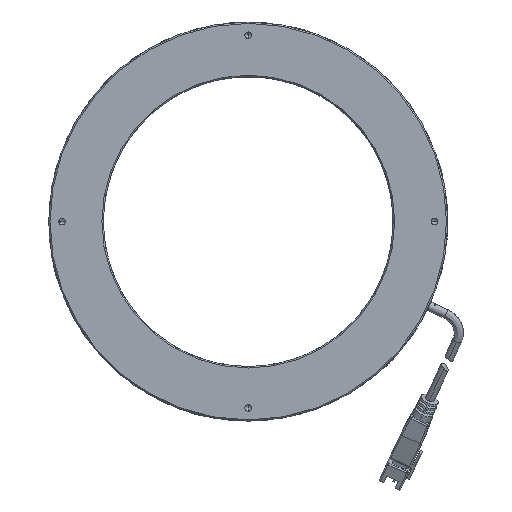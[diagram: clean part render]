
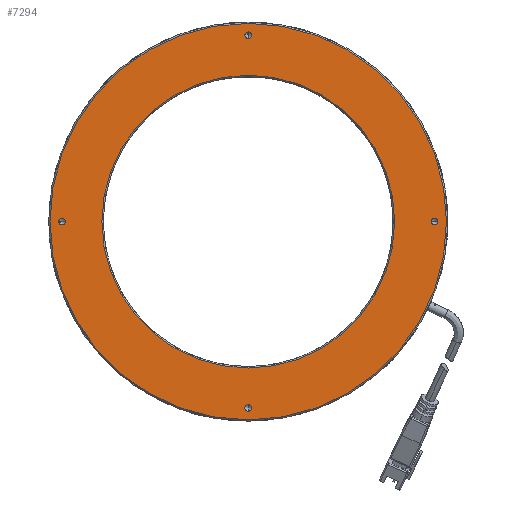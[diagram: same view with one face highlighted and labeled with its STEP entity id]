
A CAD part, front view. The second image highlights one B-rep face of the part: STEP entity #7294.
In plain terms, the highlighted planar face has unit normal (0, -1, 0).
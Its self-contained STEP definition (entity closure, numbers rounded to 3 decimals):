
#53 = CIRCLE ( 'NONE', #10741, 1.25 ) ;
#140 = EDGE_CURVE ( 'NONE', #6644, #849, #53, .T. ) ;
#263 = ORIENTED_EDGE ( 'NONE', *, *, #14422, .F. ) ;
#348 = CARTESIAN_POINT ( 'NONE',  ( 0., 0., 70. ) ) ;
#366 = ORIENTED_EDGE ( 'NONE', *, *, #9651, .F. ) ;
#378 = FACE_BOUND ( 'NONE', #7154, .T. ) ;
#445 = FACE_BOUND ( 'NONE', #3525, .T. ) ;
#488 = CARTESIAN_POINT ( 'NONE',  ( -71.25, 0., 0. ) ) ;
#522 = CARTESIAN_POINT ( 'NONE',  ( 0., 0., 68.75 ) ) ;
#849 = VERTEX_POINT ( 'NONE', #13057 ) ;
#1173 = DIRECTION ( 'NONE',  ( 0., -1., 0. ) ) ;
#1278 = EDGE_LOOP ( 'NONE', ( #263, #7851 ) ) ;
#1413 = DIRECTION ( 'NONE',  ( 0., -1., 0. ) ) ;
#1433 = DIRECTION ( 'NONE',  ( 0., -1., 0. ) ) ;
#1456 = FACE_BOUND ( 'NONE', #1278, .T. ) ;
#1502 = AXIS2_PLACEMENT_3D ( 'NONE', #11626, #1433, #5439 ) ;
#1608 = FACE_BOUND ( 'NONE', #13560, .T. ) ;
#1716 = CIRCLE ( 'NONE', #10760, 1.25 ) ;
#1913 = EDGE_CURVE ( 'NONE', #14099, #4454, #7990, .T. ) ;
#2106 = EDGE_LOOP ( 'NONE', ( #2380, #9037 ) ) ;
#2118 = CARTESIAN_POINT ( 'NONE',  ( 0., 0., 0. ) ) ;
#2295 = CARTESIAN_POINT ( 'NONE',  ( 68.75, 0., 0. ) ) ;
#2299 = CARTESIAN_POINT ( 'NONE',  ( 70., 0., 0. ) ) ;
#2312 = DIRECTION ( 'NONE',  ( 1., 0., 0. ) ) ;
#2380 = ORIENTED_EDGE ( 'NONE', *, *, #5948, .T. ) ;
#2542 = DIRECTION ( 'NONE',  ( 0., -1., 0. ) ) ;
#2809 = DIRECTION ( 'NONE',  ( 0., 1., 0. ) ) ;
#2929 = CIRCLE ( 'NONE', #8625, 1.25 ) ;
#2962 = CIRCLE ( 'NONE', #13154, 55. ) ;
#3322 = DIRECTION ( 'NONE',  ( 0., -1., 0. ) ) ;
#3495 = AXIS2_PLACEMENT_3D ( 'NONE', #10644, #2542, #9297 ) ;
#3525 = EDGE_LOOP ( 'NONE', ( #8498, #4576 ) ) ;
#3854 = CARTESIAN_POINT ( 'NONE',  ( 0., 0., 0. ) ) ;
#3902 = CIRCLE ( 'NONE', #9104, 1.25 ) ;
#4101 = DIRECTION ( 'NONE',  ( 0., 0., -1. ) ) ;
#4215 = CARTESIAN_POINT ( 'NONE',  ( 0., 0., 74.5 ) ) ;
#4341 = DIRECTION ( 'NONE',  ( 0., -1., 0. ) ) ;
#4384 = EDGE_CURVE ( 'NONE', #9706, #13792, #3902, .T. ) ;
#4454 = VERTEX_POINT ( 'NONE', #11480 ) ;
#4576 = ORIENTED_EDGE ( 'NONE', *, *, #9226, .F. ) ;
#4879 = AXIS2_PLACEMENT_3D ( 'NONE', #11450, #1413, #11376 ) ;
#5040 = CARTESIAN_POINT ( 'NONE',  ( 0., 0., -71.25 ) ) ;
#5128 = CIRCLE ( 'NONE', #8227, 1.25 ) ;
#5266 = VERTEX_POINT ( 'NONE', #4215 ) ;
#5285 = DIRECTION ( 'NONE',  ( 0., -1., 0. ) ) ;
#5439 = DIRECTION ( 'NONE',  ( 0., 0., -1. ) ) ;
#5610 = DIRECTION ( 'NONE',  ( 0., 0., 1. ) ) ;
#5909 = DIRECTION ( 'NONE',  ( 0., 0., 1. ) ) ;
#5948 = EDGE_CURVE ( 'NONE', #5266, #8545, #12448, .T. ) ;
#6644 = VERTEX_POINT ( 'NONE', #488 ) ;
#6881 = DIRECTION ( 'NONE',  ( 0., -1., 0. ) ) ;
#7154 = EDGE_LOOP ( 'NONE', ( #10225, #10109 ) ) ;
#7294 = ADVANCED_FACE ( 'NONE', ( #1608, #1456, #378, #10630, #445, #9497 ), #12987, .F. ) ;
#7785 = CARTESIAN_POINT ( 'NONE',  ( 0., 0., -74.5 ) ) ;
#7851 = ORIENTED_EDGE ( 'NONE', *, *, #4384, .F. ) ;
#7900 = CIRCLE ( 'NONE', #1502, 55. ) ;
#7965 = DIRECTION ( 'NONE',  ( 0., -1., 0. ) ) ;
#7990 = CIRCLE ( 'NONE', #3495, 1.25 ) ;
#8030 = DIRECTION ( 'NONE',  ( -1., 0., 0. ) ) ;
#8227 = AXIS2_PLACEMENT_3D ( 'NONE', #11564, #12589, #5909 ) ;
#8273 = EDGE_CURVE ( 'NONE', #8633, #10965, #9609, .T. ) ;
#8498 = ORIENTED_EDGE ( 'NONE', *, *, #11843, .F. ) ;
#8545 = VERTEX_POINT ( 'NONE', #7785 ) ;
#8625 = AXIS2_PLACEMENT_3D ( 'NONE', #348, #9411, #13917 ) ;
#8633 = VERTEX_POINT ( 'NONE', #2295 ) ;
#8948 = ORIENTED_EDGE ( 'NONE', *, *, #8273, .F. ) ;
#9037 = ORIENTED_EDGE ( 'NONE', *, *, #12265, .T. ) ;
#9069 = CARTESIAN_POINT ( 'NONE',  ( -70., 0., 0. ) ) ;
#9104 = AXIS2_PLACEMENT_3D ( 'NONE', #10216, #4341, #5610 ) ;
#9226 = EDGE_CURVE ( 'NONE', #11636, #13449, #2962, .T. ) ;
#9289 = EDGE_CURVE ( 'NONE', #849, #6644, #10074, .T. ) ;
#9297 = DIRECTION ( 'NONE',  ( 0., 0., -1. ) ) ;
#9411 = DIRECTION ( 'NONE',  ( 0., -1., 0. ) ) ;
#9497 = FACE_OUTER_BOUND ( 'NONE', #2106, .T. ) ;
#9605 = DIRECTION ( 'NONE',  ( 0., 0., -1. ) ) ;
#9609 = CIRCLE ( 'NONE', #4879, 1.25 ) ;
#9610 = AXIS2_PLACEMENT_3D ( 'NONE', #9069, #7965, #2312 ) ;
#9651 = EDGE_CURVE ( 'NONE', #10965, #8633, #1716, .T. ) ;
#9674 = CARTESIAN_POINT ( 'NONE',  ( 0., 0., 0. ) ) ;
#9706 = VERTEX_POINT ( 'NONE', #5040 ) ;
#10074 = CIRCLE ( 'NONE', #9610, 1.25 ) ;
#10109 = ORIENTED_EDGE ( 'NONE', *, *, #140, .F. ) ;
#10167 = CARTESIAN_POINT ( 'NONE',  ( 0., 0., 0. ) ) ;
#10205 = ORIENTED_EDGE ( 'NONE', *, *, #1913, .F. ) ;
#10216 = CARTESIAN_POINT ( 'NONE',  ( 0., 0., -70. ) ) ;
#10218 = CARTESIAN_POINT ( 'NONE',  ( 0., 0., 55. ) ) ;
#10225 = ORIENTED_EDGE ( 'NONE', *, *, #9289, .F. ) ;
#10630 = FACE_BOUND ( 'NONE', #11488, .T. ) ;
#10644 = CARTESIAN_POINT ( 'NONE',  ( 0., 0., 70. ) ) ;
#10741 = AXIS2_PLACEMENT_3D ( 'NONE', #14656, #6881, #11412 ) ;
#10760 = AXIS2_PLACEMENT_3D ( 'NONE', #2299, #1173, #8030 ) ;
#10766 = ORIENTED_EDGE ( 'NONE', *, *, #11766, .F. ) ;
#10965 = VERTEX_POINT ( 'NONE', #14222 ) ;
#11376 = DIRECTION ( 'NONE',  ( -1., 0., 0. ) ) ;
#11412 = DIRECTION ( 'NONE',  ( 1., 0., 0. ) ) ;
#11450 = CARTESIAN_POINT ( 'NONE',  ( 70., 0., 0. ) ) ;
#11480 = CARTESIAN_POINT ( 'NONE',  ( 0., 0., 71.25 ) ) ;
#11488 = EDGE_LOOP ( 'NONE', ( #10205, #10766 ) ) ;
#11494 = AXIS2_PLACEMENT_3D ( 'NONE', #3854, #2809, #11802 ) ;
#11564 = CARTESIAN_POINT ( 'NONE',  ( 0., 0., -70. ) ) ;
#11626 = CARTESIAN_POINT ( 'NONE',  ( 0., 0., 0. ) ) ;
#11636 = VERTEX_POINT ( 'NONE', #10218 ) ;
#11766 = EDGE_CURVE ( 'NONE', #4454, #14099, #2929, .T. ) ;
#11802 = DIRECTION ( 'NONE',  ( 0., 0., 1. ) ) ;
#11843 = EDGE_CURVE ( 'NONE', #13449, #11636, #7900, .T. ) ;
#12265 = EDGE_CURVE ( 'NONE', #8545, #5266, #12676, .T. ) ;
#12448 = CIRCLE ( 'NONE', #14320, 74.5 ) ;
#12539 = DIRECTION ( 'NONE',  ( 0., -1., 0. ) ) ;
#12589 = DIRECTION ( 'NONE',  ( 0., -1., 0. ) ) ;
#12676 = CIRCLE ( 'NONE', #13591, 74.5 ) ;
#12987 = PLANE ( 'NONE',  #11494 ) ;
#13057 = CARTESIAN_POINT ( 'NONE',  ( -68.75, 0., 0. ) ) ;
#13154 = AXIS2_PLACEMENT_3D ( 'NONE', #9674, #5285, #9605 ) ;
#13349 = CARTESIAN_POINT ( 'NONE',  ( 0., 0., -68.75 ) ) ;
#13449 = VERTEX_POINT ( 'NONE', #13673 ) ;
#13560 = EDGE_LOOP ( 'NONE', ( #8948, #366 ) ) ;
#13591 = AXIS2_PLACEMENT_3D ( 'NONE', #2118, #3322, #4101 ) ;
#13673 = CARTESIAN_POINT ( 'NONE',  ( 0., 0., -55. ) ) ;
#13792 = VERTEX_POINT ( 'NONE', #13349 ) ;
#13917 = DIRECTION ( 'NONE',  ( 0., 0., -1. ) ) ;
#14099 = VERTEX_POINT ( 'NONE', #522 ) ;
#14222 = CARTESIAN_POINT ( 'NONE',  ( 71.25, 0., 0. ) ) ;
#14320 = AXIS2_PLACEMENT_3D ( 'NONE', #10167, #12539, #14671 ) ;
#14422 = EDGE_CURVE ( 'NONE', #13792, #9706, #5128, .T. ) ;
#14656 = CARTESIAN_POINT ( 'NONE',  ( -70., 0., 0. ) ) ;
#14671 = DIRECTION ( 'NONE',  ( 0., 0., -1. ) ) ;
